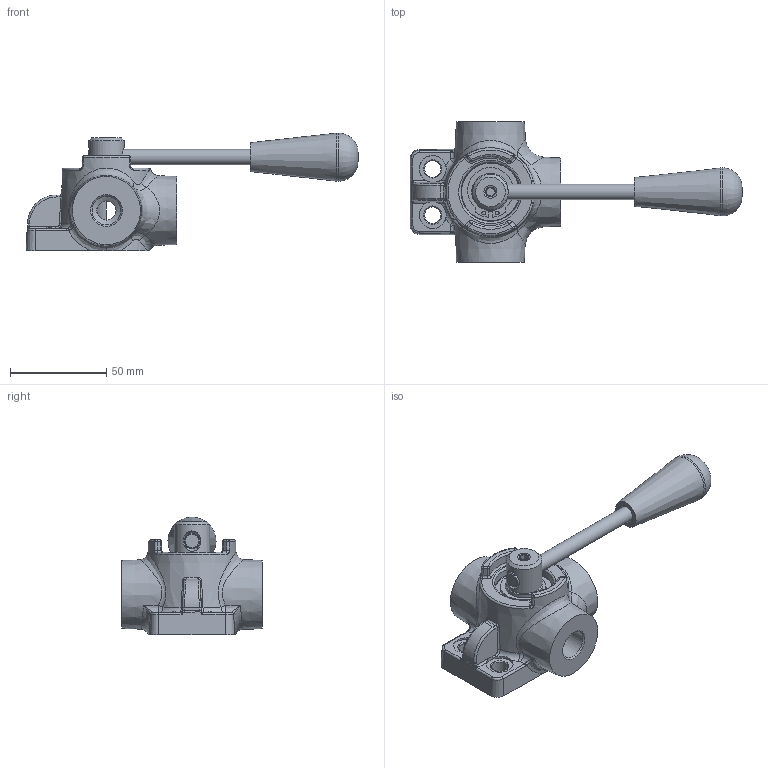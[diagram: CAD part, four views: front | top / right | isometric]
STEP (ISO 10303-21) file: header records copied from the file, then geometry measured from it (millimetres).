
FILE_DESCRIPTION(/* description */ ('Unknown'),/* implementation_level */ '2;1');
FILE_NAME(/* name */ 'DEV3V38',/* time_stamp */ '2024-12-05T10:40:24+01:00',/* author */ ('Unknown'),/* organization */ ('Unknown'),/* preprocessor_version */ 'ST-DEVELOPER v19.4',/* originating_system */ 'Solid Edge',/* authorisation */ 'Unknown');
FILE_SCHEMA (('AUTOMOTIVE_DESIGN {1 0 10303 214 3 1 1}'));
Length unit declared in the file: millimetre
Products named in the file (1): DEV3V38
Bounding box: 172.62 x 73 x 61.25 mm (x, y, z)
Volume: 141166.2 mm3; surface area: 41149.9 mm2
Topology: 9 solids, 9 shells, 266 faces, 621 edges, 373 vertices
Faces by surface type: cylinder 77, plane 69, bspline 53, cone 38, torus 21, sphere 8
Full cylindrical faces by diameter (mm): 2 x4, 4.917 x1, 6 x1, 8 x3, 8.15 x1, 8.5 x2, 10 x3, 14 x2, 14.95 x6, 15.5 x1, 17.45 x1, 18.4 x1, 18.5 x1, 19.45 x1, 19.97 x1, 19.995 x1, 20 x4, 20.03 x1, 24.5 x1, 25 x1, 30 x2, 30.5 x1, 31 x2
Entity records: 9552 total; most frequent: CARTESIAN_POINT 2675, DIRECTION 1081, ORIENTED_EDGE 988, EDGE_CURVE 494, AXIS2_PLACEMENT_3D 484, FACE_BOUND 386, EDGE_LOOP 385, VERTEX_POINT 338
